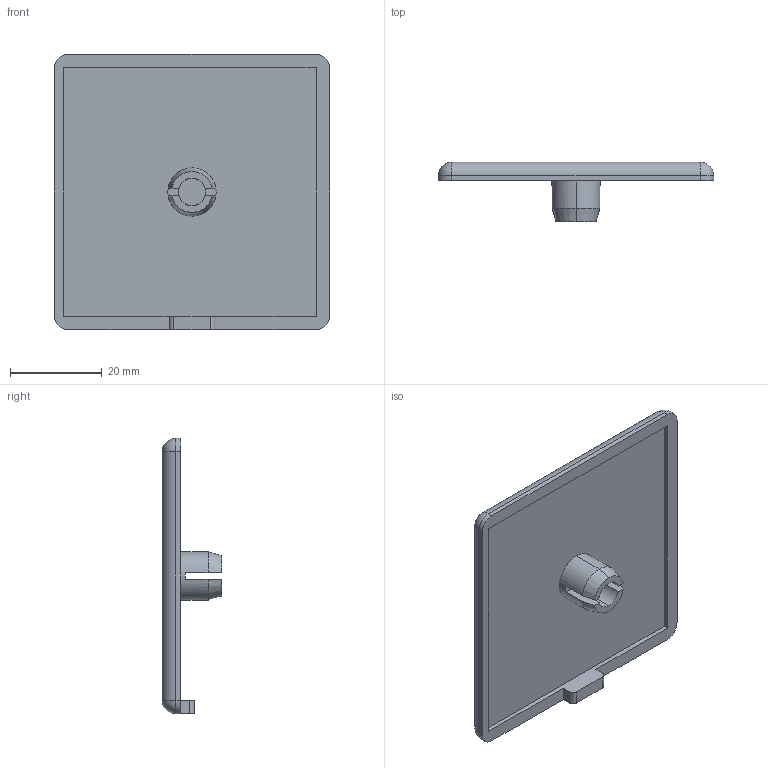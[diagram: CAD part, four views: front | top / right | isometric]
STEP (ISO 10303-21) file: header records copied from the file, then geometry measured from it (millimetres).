
FILE_DESCRIPTION (( 'STEP AP203' ), '1' );
FILE_NAME ('401170_Abdeckkappe 60x60 Nut 10, signalgrau.step', '2022-05-17T07:29:28', ( '' ), ( '' ), 'SwSTEP 2.0', 'SolidWorks 2021', '' );
FILE_SCHEMA (( 'CONFIG_CONTROL_DESIGN' ));
Length unit declared in the file: millimetre
Products named in the file (1): 401170_Abdeckkappe 60x60 Nut 10, signalgrau
Bounding box: 60 x 13 x 60 mm (x, y, z)
Volume: 11537.1 mm3; surface area: 8621.8 mm2
Topology: 1 solids, 1 shells, 44 faces, 114 edges, 69 vertices
Faces by surface type: plane 23, cylinder 14, sphere 4, cone 3
Entity records: 1390 total; most frequent: CARTESIAN_POINT 236, DIRECTION 235, ORIENTED_EDGE 220, EDGE_CURVE 110, AXIS2_PLACEMENT_3D 84, VERTEX_POINT 69, VECTOR 67, LINE 67
